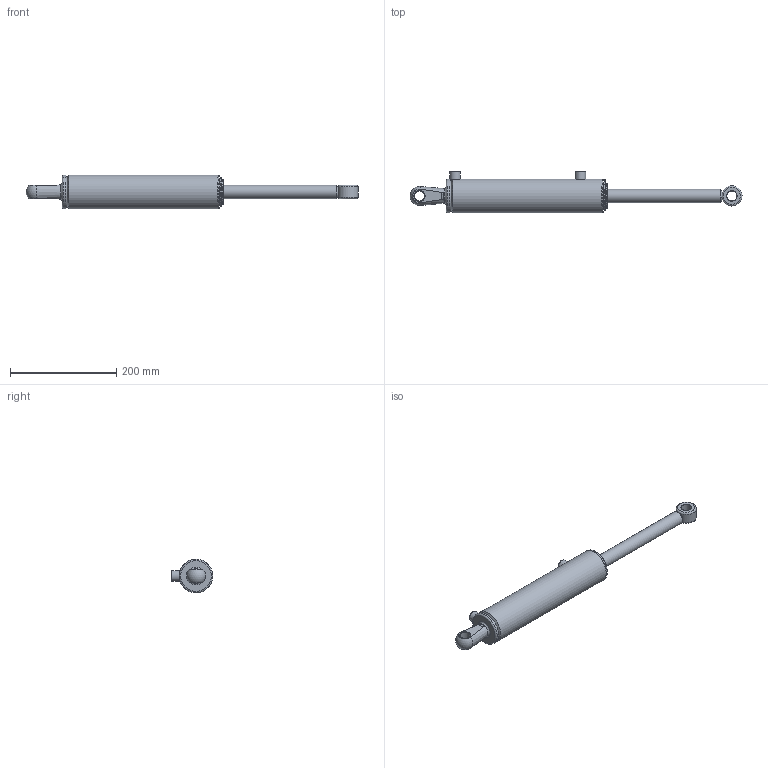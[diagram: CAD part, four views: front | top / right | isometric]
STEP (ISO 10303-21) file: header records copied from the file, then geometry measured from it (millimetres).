
FILE_DESCRIPTION(/* description */ ('Alibre Inc.'),/* implementation_level */ '2;1');
FILE_NAME(/* name */ 'export0',/* time_stamp */ '2016-08-16T09:49:22+12:00',/* author */ (''),/* organization */ (''),/* preprocessor_version */ 'ST-DEVELOPER v14',/* originating_system */ 'Alibre',/* authorisation */ '');
FILE_SCHEMA (('AUTOMOTIVE_DESIGN'));
Length unit declared in the file: centimetre
Bounding box: 624.94 x 78.5 x 63.5 mm (x, y, z)
Volume: 674593.4 mm3; surface area: 190284 mm2
Topology: 11 solids, 11 shells, 138 faces, 278 edges, 173 vertices
Faces by surface type: cylinder 51, plane 44, cone 27, torus 13, bspline 2, sphere 1
Full cylindrical faces by diameter (mm): 2.5 x2, 5.588 x1, 6.35 x2, 8.3 x2, 11.9 x2, 17.323 x2, 19.05 x2, 19.101 x1, 20 x2, 25.4 x1, 25.45 x2, 31.77 x1, 31.8 x1, 32.5 x1, 34.93 x2, 38.1 x1, 41.3 x2, 44.91 x1, 45.5 x1, 46.23 x2, 48 x2, 48.3 x1, 49.48 x2, 50.07 x1, 50.69 x2, 50.8 x2, 54 x1, 63.5 x3
Entity records: 3664 total; most frequent: CARTESIAN_POINT 968, DIRECTION 530, ORIENTED_EDGE 330, AXIS2_PLACEMENT_3D 283, FACE_BOUND 258, EDGE_LOOP 256, EDGE_CURVE 165, VERTEX_POINT 153
